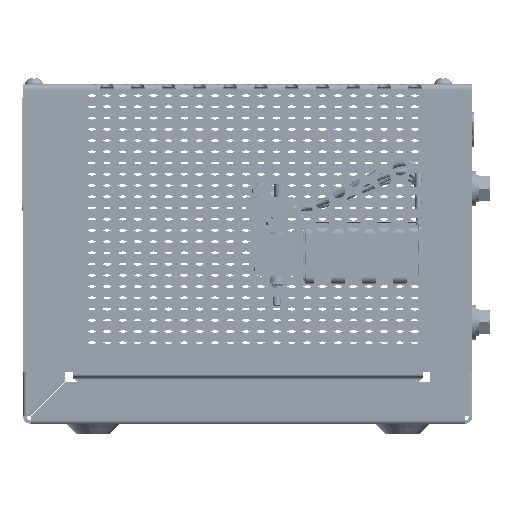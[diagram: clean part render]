
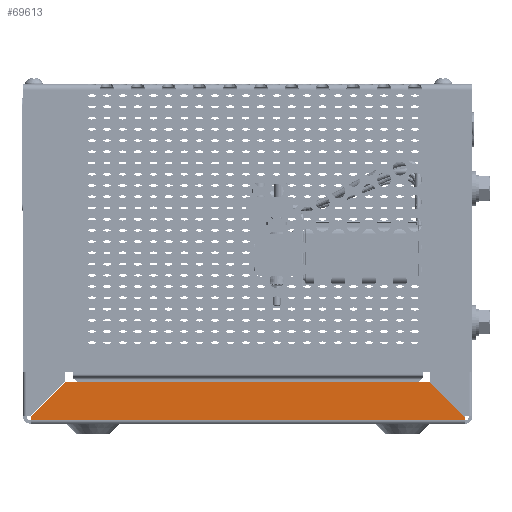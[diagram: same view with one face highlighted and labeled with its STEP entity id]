
A CAD part, left-side view. The second image highlights one B-rep face of the part: STEP entity #69613.
In plain terms, the highlighted planar face has unit normal (-1, 0, 0) as drawn and (0, -1, 0) by its records, which use the part's own axes.
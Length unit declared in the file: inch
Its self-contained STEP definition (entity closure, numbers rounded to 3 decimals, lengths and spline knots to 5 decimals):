
#2426 = DIRECTION ( 'NONE',  ( 0., 0., 1. ) ) ;
#4558 = DIRECTION ( 'NONE',  ( -1., 0., 0. ) ) ;
#5961 = EDGE_CURVE ( 'NONE', #49352, #95292, #139083, .T. ) ;
#8313 = ORIENTED_EDGE ( 'NONE', *, *, #107436, .T. ) ;
#9249 = VERTEX_POINT ( 'NONE', #30786 ) ;
#13597 = LINE ( 'NONE', #119612, #45664 ) ;
#18253 = VERTEX_POINT ( 'NONE', #146982 ) ;
#18259 = EDGE_CURVE ( 'NONE', #9249, #119970, #56043, .T. ) ;
#18831 = ORIENTED_EDGE ( 'NONE', *, *, #39173, .F. ) ;
#22799 = PLANE ( 'NONE',  #47503 ) ;
#24949 = CARTESIAN_POINT ( 'NONE',  ( 2.83, -0.0598, 6.23054 ) ) ;
#30786 = CARTESIAN_POINT ( 'NONE',  ( 2.76924, -0.0598, 6.23054 ) ) ;
#38058 = DIRECTION ( 'NONE',  ( 0., 0., 1. ) ) ;
#39173 = EDGE_CURVE ( 'NONE', #18253, #119970, #13597, .T. ) ;
#39421 = ORIENTED_EDGE ( 'NONE', *, *, #56921, .T. ) ;
#40801 = VECTOR ( 'NONE', #67890, 39.37008 ) ;
#41797 = DIRECTION ( 'NONE',  ( 0., -1., 0. ) ) ;
#43846 = DIRECTION ( 'NONE',  ( 0.707, 0., -0.707 ) ) ;
#44841 = CARTESIAN_POINT ( 'NONE',  ( 2.83, -0.0598, -1.49986 ) ) ;
#45664 = VECTOR ( 'NONE', #38058, 39.37008 ) ;
#47503 = AXIS2_PLACEMENT_3D ( 'NONE', #67085, #41797, #165332 ) ;
#48488 = DIRECTION ( 'NONE',  ( 1., 0., 0. ) ) ;
#49352 = VERTEX_POINT ( 'NONE', #177015 ) ;
#50292 = VECTOR ( 'NONE', #43846, 39.37008 ) ;
#52708 = ORIENTED_EDGE ( 'NONE', *, *, #5961, .T. ) ;
#56043 = LINE ( 'NONE', #135541, #40801 ) ;
#56921 = EDGE_CURVE ( 'NONE', #95292, #9249, #129197, .T. ) ;
#63652 = EDGE_LOOP ( 'NONE', ( #39421, #88478, #18831, #8313, #156364, #52708 ) ) ;
#67085 = CARTESIAN_POINT ( 'NONE',  ( 2.1399, -0.0598, -1.49986 ) ) ;
#67890 = DIRECTION ( 'NONE',  ( -0.707, 0., -0.707 ) ) ;
#69613 = ADVANCED_FACE ( 'NONE', ( #154072 ), #22799, .T. ) ;
#71103 = VECTOR ( 'NONE', #48488, 39.37008 ) ;
#83870 = CARTESIAN_POINT ( 'NONE',  ( 2.76924, -0.0598, -1.49986 ) ) ;
#88478 = ORIENTED_EDGE ( 'NONE', *, *, #18259, .T. ) ;
#95292 = VERTEX_POINT ( 'NONE', #24949 ) ;
#99814 = CARTESIAN_POINT ( 'NONE',  ( 2.1399, -0.0598, 6.23054 ) ) ;
#107436 = EDGE_CURVE ( 'NONE', #18253, #141222, #123249, .T. ) ;
#111264 = VECTOR ( 'NONE', #2426, 39.37008 ) ;
#115926 = EDGE_CURVE ( 'NONE', #141222, #49352, #141924, .T. ) ;
#119612 = CARTESIAN_POINT ( 'NONE',  ( 2.1399, -0.0598, -1.49986 ) ) ;
#119970 = VERTEX_POINT ( 'NONE', #135430 ) ;
#121879 = CARTESIAN_POINT ( 'NONE',  ( 2.45457, -0.0598, -1.18519 ) ) ;
#123249 = LINE ( 'NONE', #121879, #50292 ) ;
#129197 = LINE ( 'NONE', #99814, #169858 ) ;
#135430 = CARTESIAN_POINT ( 'NONE',  ( 2.1399, -0.0598, 5.6012 ) ) ;
#135541 = CARTESIAN_POINT ( 'NONE',  ( -1.41063, -0.0598, 2.05067 ) ) ;
#139083 = LINE ( 'NONE', #44841, #111264 ) ;
#141222 = VERTEX_POINT ( 'NONE', #83870 ) ;
#141924 = LINE ( 'NONE', #171880, #71103 ) ;
#146982 = CARTESIAN_POINT ( 'NONE',  ( 2.1399, -0.0598, -0.87052 ) ) ;
#154072 = FACE_OUTER_BOUND ( 'NONE', #63652, .T. ) ;
#156364 = ORIENTED_EDGE ( 'NONE', *, *, #115926, .T. ) ;
#165332 = DIRECTION ( 'NONE',  ( 1., 0., 0. ) ) ;
#169858 = VECTOR ( 'NONE', #4558, 39.37008 ) ;
#171880 = CARTESIAN_POINT ( 'NONE',  ( 2.1399, -0.0598, -1.49986 ) ) ;
#177015 = CARTESIAN_POINT ( 'NONE',  ( 2.83, -0.0598, -1.49986 ) ) ;
